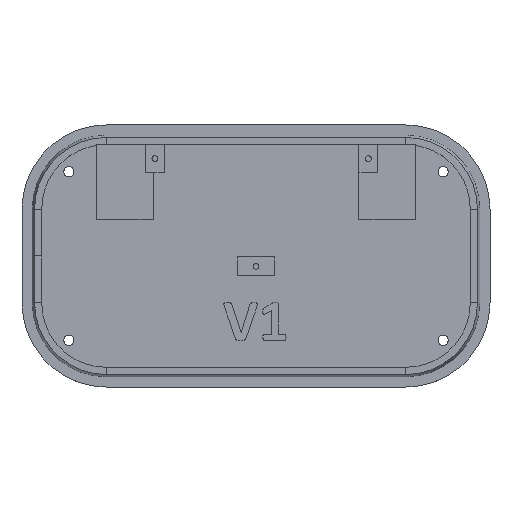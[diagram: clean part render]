
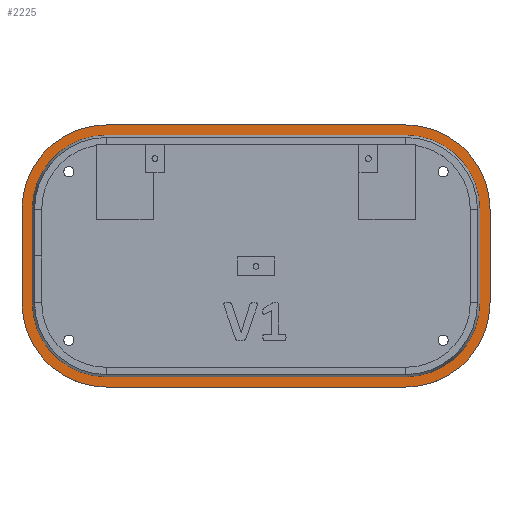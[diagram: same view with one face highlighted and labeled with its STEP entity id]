
A CAD part, top view. The second image highlights one B-rep face of the part: STEP entity #2225.
In plain terms, the highlighted planar face has unit normal (0, 0, 1) as drawn and (0, 1, 0) by its records, which use the part's own axes.
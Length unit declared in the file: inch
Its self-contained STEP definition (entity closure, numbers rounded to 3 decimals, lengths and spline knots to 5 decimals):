
#46 = LINE ( 'NONE', #3622, #3174 ) ;
#61 = DIRECTION ( 'NONE',  ( 0., 0., -1. ) ) ;
#168 = DIRECTION ( 'NONE',  ( 0., 0., -1. ) ) ;
#188 = VERTEX_POINT ( 'NONE', #3443 ) ;
#189 = DIRECTION ( 'NONE',  ( 1., 0., 0. ) ) ;
#211 = VERTEX_POINT ( 'NONE', #3748 ) ;
#231 = EDGE_CURVE ( 'NONE', #4249, #3912, #1972, .T. ) ;
#329 = ORIENTED_EDGE ( 'NONE', *, *, #480, .T. ) ;
#330 = CARTESIAN_POINT ( 'NONE',  ( -2., 0.125, 0.625 ) ) ;
#331 = DIRECTION ( 'NONE',  ( -1., 0., 0. ) ) ;
#366 = VECTOR ( 'NONE', #2687, 39.37008 ) ;
#424 = VERTEX_POINT ( 'NONE', #574 ) ;
#463 = CIRCLE ( 'NONE', #3347, 1.125 ) ;
#480 = EDGE_CURVE ( 'NONE', #3628, #1190, #1062, .T. ) ;
#490 = LINE ( 'NONE', #1935, #666 ) ;
#535 = CIRCLE ( 'NONE', #3344, 0.9872 ) ;
#546 = FACE_BOUND ( 'NONE', #3006, .T. ) ;
#574 = CARTESIAN_POINT ( 'NONE',  ( 2.9872, 0.125, 0.625 ) ) ;
#638 = CARTESIAN_POINT ( 'NONE',  ( 0., 0.125, 0. ) ) ;
#666 = VECTOR ( 'NONE', #189, 39.37008 ) ;
#691 = DIRECTION ( 'NONE',  ( 0., 0., 1. ) ) ;
#696 = EDGE_LOOP ( 'NONE', ( #1937, #2622, #3222, #4681, #4663, #3638, #3016, #2215 ) ) ;
#814 = AXIS2_PLACEMENT_3D ( 'NONE', #3881, #1343, #991 ) ;
#850 = VECTOR ( 'NONE', #3821, 39.37008 ) ;
#907 = CARTESIAN_POINT ( 'NONE',  ( -3.125, 0.125, -1.75 ) ) ;
#991 = DIRECTION ( 'NONE',  ( 0., 0., 1. ) ) ;
#1062 = CIRCLE ( 'NONE', #1743, 0.9872 ) ;
#1064 = CARTESIAN_POINT ( 'NONE',  ( -2.9872, 0.125, 0. ) ) ;
#1108 = EDGE_CURVE ( 'NONE', #2321, #1472, #4267, .T. ) ;
#1133 = CIRCLE ( 'NONE', #1581, 0.9872 ) ;
#1190 = VERTEX_POINT ( 'NONE', #1739 ) ;
#1219 = CARTESIAN_POINT ( 'NONE',  ( -2., 0.125, -1.6122 ) ) ;
#1256 = CARTESIAN_POINT ( 'NONE',  ( -2.9872, 0.125, -0.625 ) ) ;
#1284 = CARTESIAN_POINT ( 'NONE',  ( 2., 0.125, 1.75 ) ) ;
#1307 = CARTESIAN_POINT ( 'NONE',  ( 3.125, 0.125, -1.75 ) ) ;
#1336 = CARTESIAN_POINT ( 'NONE',  ( 2., 0.125, 1.6122 ) ) ;
#1343 = DIRECTION ( 'NONE',  ( 0., 1., 0. ) ) ;
#1405 = PLANE ( 'NONE',  #1650 ) ;
#1438 = LINE ( 'NONE', #2875, #3805 ) ;
#1472 = VERTEX_POINT ( 'NONE', #1737 ) ;
#1575 = VERTEX_POINT ( 'NONE', #1284 ) ;
#1578 = EDGE_CURVE ( 'NONE', #424, #1863, #535, .T. ) ;
#1581 = AXIS2_PLACEMENT_3D ( 'NONE', #4487, #3449, #4130 ) ;
#1596 = LINE ( 'NONE', #4482, #850 ) ;
#1623 = LINE ( 'NONE', #907, #2191 ) ;
#1645 = DIRECTION ( 'NONE',  ( 0., 0., 1. ) ) ;
#1650 = AXIS2_PLACEMENT_3D ( 'NONE', #638, #3907, #691 ) ;
#1689 = DIRECTION ( 'NONE',  ( 1., 0., 0. ) ) ;
#1734 = AXIS2_PLACEMENT_3D ( 'NONE', #3895, #1792, #1748 ) ;
#1737 = CARTESIAN_POINT ( 'NONE',  ( 3.125, 0.125, -0.625 ) ) ;
#1739 = CARTESIAN_POINT ( 'NONE',  ( -2.9872, 0.125, 0.625 ) ) ;
#1743 = AXIS2_PLACEMENT_3D ( 'NONE', #330, #1770, #4556 ) ;
#1748 = DIRECTION ( 'NONE',  ( 0., 0., 1. ) ) ;
#1770 = DIRECTION ( 'NONE',  ( 0., -1., 0. ) ) ;
#1792 = DIRECTION ( 'NONE',  ( 0., 1., 0. ) ) ;
#1863 = VERTEX_POINT ( 'NONE', #1336 ) ;
#1893 = CARTESIAN_POINT ( 'NONE',  ( 3.125, 0.125, 0.625 ) ) ;
#1902 = DIRECTION ( 'NONE',  ( 1., 0., 0. ) ) ;
#1935 = CARTESIAN_POINT ( 'NONE',  ( -3.125, 0.125, 1.75 ) ) ;
#1937 = ORIENTED_EDGE ( 'NONE', *, *, #4530, .T. ) ;
#1972 = LINE ( 'NONE', #1219, #3933 ) ;
#2009 = CARTESIAN_POINT ( 'NONE',  ( 2., 0.125, -1.6122 ) ) ;
#2017 = EDGE_CURVE ( 'NONE', #2285, #4654, #463, .T. ) ;
#2103 = ORIENTED_EDGE ( 'NONE', *, *, #3153, .T. ) ;
#2109 = VERTEX_POINT ( 'NONE', #1256 ) ;
#2131 = CARTESIAN_POINT ( 'NONE',  ( 2., 0.125, 1.6122 ) ) ;
#2191 = VECTOR ( 'NONE', #1645, 39.37008 ) ;
#2215 = ORIENTED_EDGE ( 'NONE', *, *, #2519, .T. ) ;
#2225 = ADVANCED_FACE ( 'NONE', ( #3796, #546 ), #1405, .T. ) ;
#2285 = VERTEX_POINT ( 'NONE', #4427 ) ;
#2315 = CARTESIAN_POINT ( 'NONE',  ( -3.125, 0.125, -1.75 ) ) ;
#2321 = VERTEX_POINT ( 'NONE', #1893 ) ;
#2398 = EDGE_CURVE ( 'NONE', #2506, #1575, #490, .T. ) ;
#2418 = VECTOR ( 'NONE', #331, 39.37008 ) ;
#2427 = VECTOR ( 'NONE', #2474, 39.37008 ) ;
#2461 = EDGE_CURVE ( 'NONE', #3912, #211, #2629, .T. ) ;
#2474 = DIRECTION ( 'NONE',  ( 0., 0., -1. ) ) ;
#2493 = VERTEX_POINT ( 'NONE', #1064 ) ;
#2506 = VERTEX_POINT ( 'NONE', #3247 ) ;
#2519 = EDGE_CURVE ( 'NONE', #1472, #2531, #2858, .T. ) ;
#2531 = VERTEX_POINT ( 'NONE', #3901 ) ;
#2563 = ORIENTED_EDGE ( 'NONE', *, *, #2575, .T. ) ;
#2575 = EDGE_CURVE ( 'NONE', #2493, #2109, #46, .T. ) ;
#2622 = ORIENTED_EDGE ( 'NONE', *, *, #2017, .T. ) ;
#2625 = DIRECTION ( 'NONE',  ( 0., 0., 1. ) ) ;
#2629 = CIRCLE ( 'NONE', #3086, 0.9872 ) ;
#2666 = AXIS2_PLACEMENT_3D ( 'NONE', #3970, #4683, #3706 ) ;
#2687 = DIRECTION ( 'NONE',  ( -1., 0., 0. ) ) ;
#2694 = ORIENTED_EDGE ( 'NONE', *, *, #3096, .T. ) ;
#2772 = EDGE_CURVE ( 'NONE', #2109, #4249, #1133, .T. ) ;
#2802 = EDGE_CURVE ( 'NONE', #4654, #188, #1623, .T. ) ;
#2858 = CIRCLE ( 'NONE', #814, 1.125 ) ;
#2875 = CARTESIAN_POINT ( 'NONE',  ( -2.9872, 0.125, 0.625 ) ) ;
#2884 = EDGE_CURVE ( 'NONE', #188, #2506, #3771, .T. ) ;
#2889 = EDGE_CURVE ( 'NONE', #1863, #3628, #3164, .T. ) ;
#2912 = ORIENTED_EDGE ( 'NONE', *, *, #1578, .T. ) ;
#2916 = ORIENTED_EDGE ( 'NONE', *, *, #2889, .T. ) ;
#3006 = EDGE_LOOP ( 'NONE', ( #2694, #2563, #4591, #3832, #4447, #2103, #2912, #2916, #329 ) ) ;
#3016 = ORIENTED_EDGE ( 'NONE', *, *, #1108, .T. ) ;
#3081 = EDGE_CURVE ( 'NONE', #1575, #2321, #3126, .T. ) ;
#3086 = AXIS2_PLACEMENT_3D ( 'NONE', #4562, #3412, #168 ) ;
#3096 = EDGE_CURVE ( 'NONE', #1190, #2493, #1438, .T. ) ;
#3126 = CIRCLE ( 'NONE', #2666, 1.125 ) ;
#3153 = EDGE_CURVE ( 'NONE', #211, #424, #1596, .T. ) ;
#3164 = LINE ( 'NONE', #2131, #2418 ) ;
#3174 = VECTOR ( 'NONE', #3297, 39.37008 ) ;
#3222 = ORIENTED_EDGE ( 'NONE', *, *, #2802, .T. ) ;
#3247 = CARTESIAN_POINT ( 'NONE',  ( -2., 0.125, 1.75 ) ) ;
#3297 = DIRECTION ( 'NONE',  ( 0., 0., -1. ) ) ;
#3305 = CARTESIAN_POINT ( 'NONE',  ( -2., 0.125, -0.625 ) ) ;
#3344 = AXIS2_PLACEMENT_3D ( 'NONE', #4166, #3493, #1689 ) ;
#3347 = AXIS2_PLACEMENT_3D ( 'NONE', #3305, #3720, #2625 ) ;
#3384 = CARTESIAN_POINT ( 'NONE',  ( -3.125, 0.125, -0.625 ) ) ;
#3412 = DIRECTION ( 'NONE',  ( 0., -1., 0. ) ) ;
#3443 = CARTESIAN_POINT ( 'NONE',  ( -3.125, 0.125, 0.625 ) ) ;
#3449 = DIRECTION ( 'NONE',  ( 0., -1., 0. ) ) ;
#3493 = DIRECTION ( 'NONE',  ( 0., -1., 0. ) ) ;
#3622 = CARTESIAN_POINT ( 'NONE',  ( -2.9872, 0.125, 0. ) ) ;
#3628 = VERTEX_POINT ( 'NONE', #4527 ) ;
#3638 = ORIENTED_EDGE ( 'NONE', *, *, #3081, .T. ) ;
#3706 = DIRECTION ( 'NONE',  ( 0., 0., 1. ) ) ;
#3720 = DIRECTION ( 'NONE',  ( 0., 1., 0. ) ) ;
#3748 = CARTESIAN_POINT ( 'NONE',  ( 2.9872, 0.125, -0.625 ) ) ;
#3771 = CIRCLE ( 'NONE', #1734, 1.125 ) ;
#3796 = FACE_OUTER_BOUND ( 'NONE', #696, .T. ) ;
#3805 = VECTOR ( 'NONE', #61, 39.37008 ) ;
#3821 = DIRECTION ( 'NONE',  ( 0., 0., 1. ) ) ;
#3832 = ORIENTED_EDGE ( 'NONE', *, *, #231, .T. ) ;
#3881 = CARTESIAN_POINT ( 'NONE',  ( 2., 0.125, -0.625 ) ) ;
#3895 = CARTESIAN_POINT ( 'NONE',  ( -2., 0.125, 0.625 ) ) ;
#3901 = CARTESIAN_POINT ( 'NONE',  ( 2., 0.125, -1.75 ) ) ;
#3907 = DIRECTION ( 'NONE',  ( 0., 1., 0. ) ) ;
#3912 = VERTEX_POINT ( 'NONE', #2009 ) ;
#3933 = VECTOR ( 'NONE', #1902, 39.37008 ) ;
#3970 = CARTESIAN_POINT ( 'NONE',  ( 2., 0.125, 0.625 ) ) ;
#4130 = DIRECTION ( 'NONE',  ( -1., 0., 0. ) ) ;
#4166 = CARTESIAN_POINT ( 'NONE',  ( 2., 0.125, 0.625 ) ) ;
#4249 = VERTEX_POINT ( 'NONE', #4647 ) ;
#4267 = LINE ( 'NONE', #1307, #2427 ) ;
#4427 = CARTESIAN_POINT ( 'NONE',  ( -2., 0.125, -1.75 ) ) ;
#4447 = ORIENTED_EDGE ( 'NONE', *, *, #2461, .T. ) ;
#4482 = CARTESIAN_POINT ( 'NONE',  ( 2.9872, 0.125, -0.625 ) ) ;
#4487 = CARTESIAN_POINT ( 'NONE',  ( -2., 0.125, -0.625 ) ) ;
#4488 = LINE ( 'NONE', #2315, #366 ) ;
#4527 = CARTESIAN_POINT ( 'NONE',  ( -2., 0.125, 1.6122 ) ) ;
#4530 = EDGE_CURVE ( 'NONE', #2531, #2285, #4488, .T. ) ;
#4556 = DIRECTION ( 'NONE',  ( 0., 0., 1. ) ) ;
#4562 = CARTESIAN_POINT ( 'NONE',  ( 2., 0.125, -0.625 ) ) ;
#4591 = ORIENTED_EDGE ( 'NONE', *, *, #2772, .T. ) ;
#4647 = CARTESIAN_POINT ( 'NONE',  ( -2., 0.125, -1.6122 ) ) ;
#4654 = VERTEX_POINT ( 'NONE', #3384 ) ;
#4663 = ORIENTED_EDGE ( 'NONE', *, *, #2398, .T. ) ;
#4681 = ORIENTED_EDGE ( 'NONE', *, *, #2884, .T. ) ;
#4683 = DIRECTION ( 'NONE',  ( 0., 1., 0. ) ) ;
